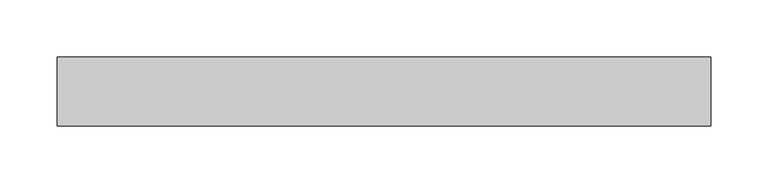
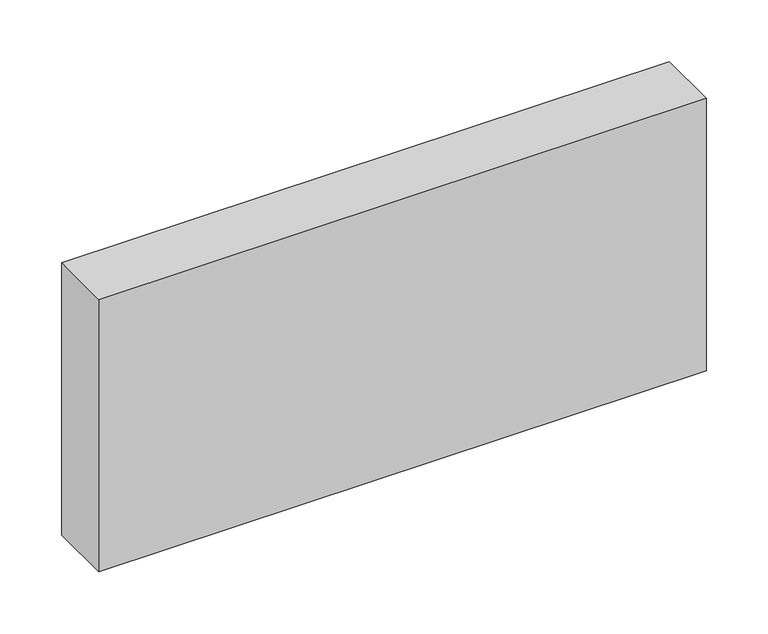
"""IFC4 building model written with IfcOpenShell, lengths in millimetres: plate geometry, Системная панель : Алюкобонд красный."""

from ifc_helpers import new_model, si_unit, origin, origin_with_axes, place, context, project, spatial, polyline, outline, extrude, source, transform, mapped, element, save


def plate_f7595876(model_context):
    return source(origin(), model_context, "Body", "SweptSolid", [
        extrude(outline(polyline([(285.0, -10.5), (-285.0, -10.5), (-285.0, 49.5), (285.0, 49.5), (285.0, -10.5)])), origin_with_axes(), (0.0, 0.0, 1.0), 270.0),
    ])


if __name__ == "__main__":
    model = new_model("IFC4")
    model_context = context("Model", 3, world=origin())
    ifc_project = project(units=[si_unit("LENGTHUNIT", "METRE", prefix="MILLI")], contexts=[model_context])
    site = spatial("IfcSite", under=ifc_project)
    building = spatial("IfcBuilding", under=site)
    placement = place(None, origin())
    plate_shape = plate_f7595876(model_context)
    element("IfcPlate", 1, ObjectType="Системная панель : Алюкобонд красный", at=placement, inside=building, context=model_context, shape_type="MappedRepresentation", body=[
        mapped(plate_shape, transform((0.0, 0.0, 0.0), x_axis=(1.0, 0.0, 0.0), y_axis=(0.0, 1.0, 0.0), z_axis=(0.0, 0.0, 1.0))),
    ])
    save(model, "model.ifc")
